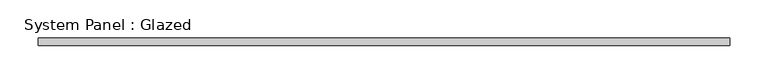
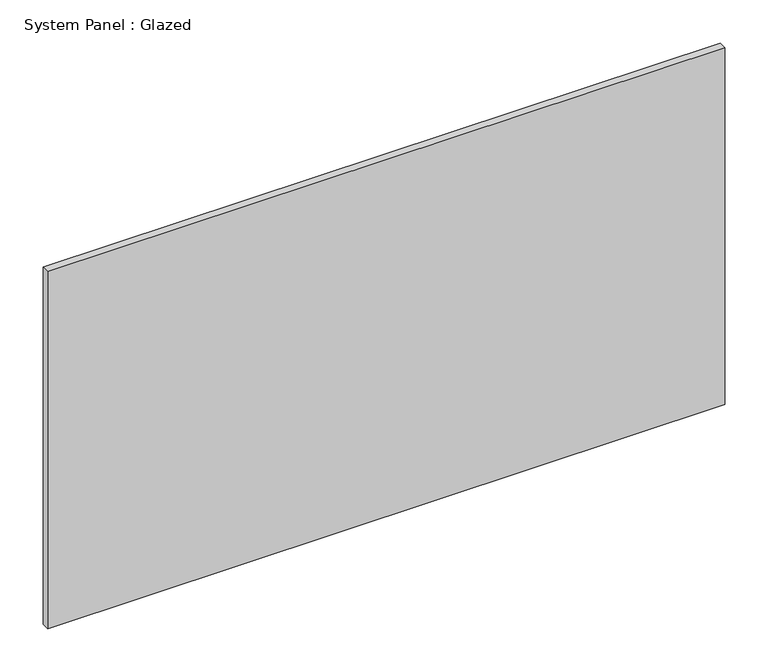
"""IFC4 building model written with IfcOpenShell, lengths in millimetres: plate geometry, System Panel : Glazed."""

from ifc_helpers import new_model, si_unit, origin, origin_with_axes, place, context, project, spatial, polyline, outline, extrude, source, transform, mapped, element, save


def system_panel_glazed_62ff626e(model_context):
    return source(origin(), model_context, "Body", "SweptSolid", [
        extrude(outline(polyline([(452.4861372, -5.0), (-452.4861372, -5.0), (-452.4861372, 5.0), (452.4861372, 5.0), (452.4861372, -5.0)])), origin_with_axes(), (0.0, 0.0, 1.0), 505.0),
    ])


if __name__ == "__main__":
    model = new_model("IFC4")
    model_context = context("Model", 3, world=origin())
    ifc_project = project(units=[si_unit("LENGTHUNIT", "METRE", prefix="MILLI")], contexts=[model_context])
    site = spatial("IfcSite", under=ifc_project)
    building = spatial("IfcBuilding", under=site)
    placement = place(None, origin())
    system_panel_glazed_shape = system_panel_glazed_62ff626e(model_context)
    element("IfcPlate", 1, ObjectType="System Panel : Glazed", at=placement, inside=building, context=model_context, shape_type="MappedRepresentation", body=[
        mapped(system_panel_glazed_shape, transform((0.0, 0.0, 0.0), x_axis=(1.0, 0.0, 0.0), y_axis=(0.0, 1.0, 0.0), z_axis=(0.0, 0.0, 1.0))),
    ])
    save(model, "model.ifc")
